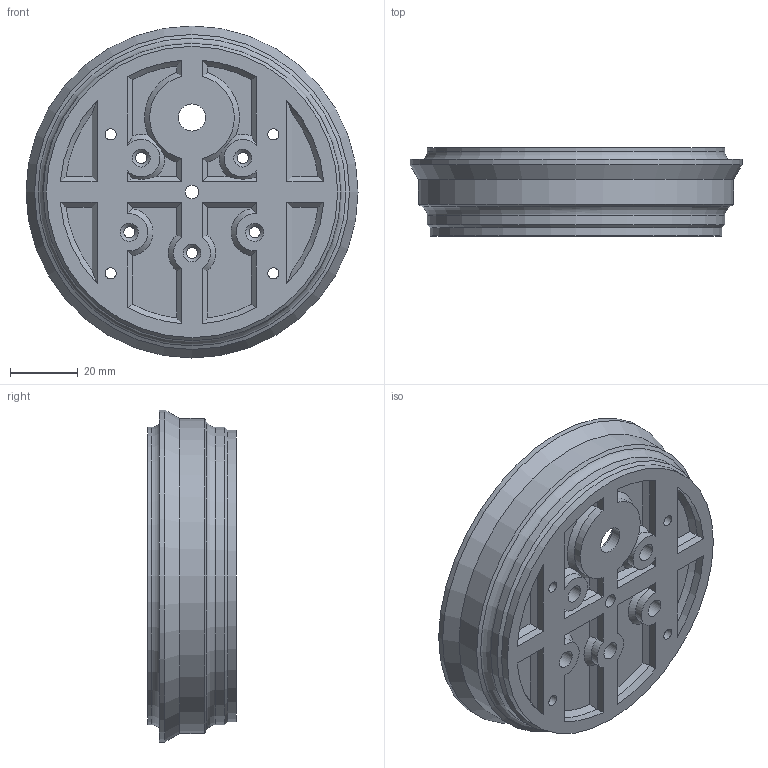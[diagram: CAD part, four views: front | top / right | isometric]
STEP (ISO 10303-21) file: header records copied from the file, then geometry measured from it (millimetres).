
FILE_DESCRIPTION(/* description */ (''),/* implementation_level */ '2;1');
FILE_NAME(/* name */ '\\192.168.3.8\kumagai\Develop\CAD\NakataOmni\DriveUnitR3\SteerBase.stp',/* time_stamp */ '2024-05-22T10:15:21+09:00',/* author */ ('kumagai'),/* organization */ (''),/* preprocessor_version */ 'ST-DEVELOPER v19',/* originating_system */ 'Autodesk Inventor 2023',/* authorisation */ '');
FILE_SCHEMA (('AUTOMOTIVE_DESIGN { 1 0 10303 214 3 1 1 }'));
Length unit declared in the file: millimetre
Products named in the file (1): LowerCase
Bounding box: 98 x 26 x 98 mm (x, y, z)
Volume: 63970.8 mm3; surface area: 29739 mm2
Topology: 1 solids, 1 shells, 164 faces, 403 edges, 261 vertices
Faces by surface type: plane 79, cylinder 51, cone 29, torus 4, sphere 1
Full cylindrical faces by diameter (mm): 2 x1, 3.3 x9, 4 x1, 5.3 x11, 6 x1, 8 x1, 9.8 x1, 12 x1, 20 x1, 81 x1, 86 x1, 87.8 x2, 93 x1, 98 x1
Entity records: 5047 total; most frequent: CARTESIAN_POINT 1103, ORIENTED_EDGE 806, DIRECTION 800, EDGE_CURVE 403, AXIS2_PLACEMENT_3D 308, VERTEX_POINT 261, EDGE_LOOP 206, LINE 184
